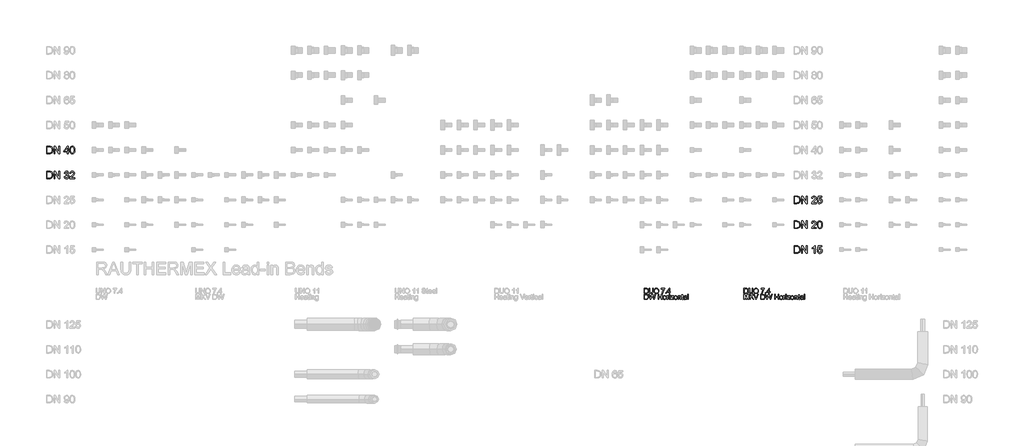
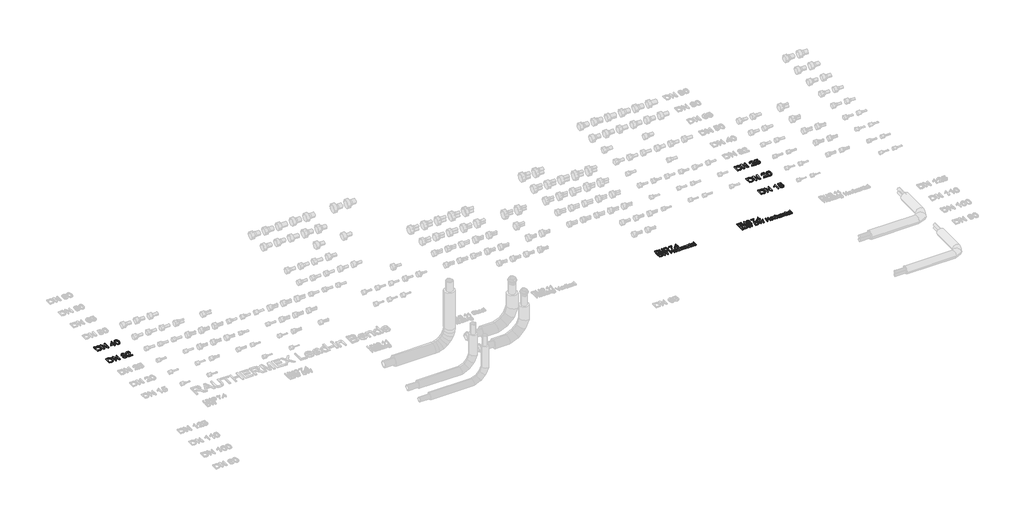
# One storey, part 12 of 44: 7 proxies.
"""IFC4 building model written with IfcOpenShell, lengths in millimetres."""

from ifc_helpers import new_model, si_unit, origin, origin_with_axes, place, context, project, spatial, polyline, outline, extrude, element, save

model = new_model("IFC4")

# Units and contexts
model_context = context("Model", 3, world=origin())
ifc_project = project(units=[si_unit("LENGTHUNIT", "METRE", prefix="MILLI")], contexts=[model_context])

# Site, building, storey
site = spatial("IfcSite", under=ifc_project)
building = spatial("IfcBuilding", under=site)
storey = spatial("IfcBuildingStorey", under=building, Name="REHAU Starting view", Elevation=0.0)

# Proxies
placement = place(None, origin())
element("IfcBuildingElementProxy", 1, Name="100", ObjectType="100", at=placement, inside=storey, context=model_context, shape_type="SweptSolid", body=[
    extrude(outline(polyline([(12010.9874089, 6121.9748178), (12010.9874089, 6222.431128), (12045.6418929, 6222.431128), (12063.5700088, 6220.9841255), (12078.3343395, 6213.7981638), (12090.2291907, 6196.6303374), (12094.1777908, 6172.7425332), (12091.5045149, 6152.4722352), (12084.6373844, 6137.8427946), (12075.4648599, 6128.7315838), (12063.4596442, 6123.6916005), (12047.3096246, 6121.9748178), (12010.9874089, 6121.9748178)]), holes=[polyline([(12023.5444477, 6134.5318566), (12045.7645202, 6134.5318566), (12061.9268025, 6136.3467411), (12071.2464797, 6141.4725636), (12078.8861625, 6153.9437632), (12081.620752, 6172.9387369), (12080.2810484, 6186.6239471), (12076.2619376, 6196.7284393), (12063.2266522, 6207.863001), (12045.4211637, 6209.8740892), (12023.5444477, 6209.8740892), (12023.5444477, 6134.5318566)])]), origin_with_axes(), (0.0, 0.0, 1.0), 20.0),
    extrude(outline(polyline([(12177.3681726, 6222.431128), (12189.9252114, 6222.431128), (12189.9252114, 6164.477451), (12186.5161716, 6140.4547567), (12174.2289129, 6125.9847316), (12163.9650053, 6121.8000739), (12150.9297199, 6120.405188), (12127.9861461, 6125.2612303), (12120.3464634, 6131.2055902), (12115.2574291, 6139.3265853), (12111.4437191, 6164.477451), (12111.4437191, 6222.431128), (12124.0007578, 6222.431128), (12124.0007578, 6164.9189094), (12126.4778299, 6145.7767829), (12134.9881668, 6136.2976902), (12149.7524975, 6132.9622268), (12162.5241341, 6134.6115644), (12171.0160768, 6139.5595772), (12175.7801487, 6149.1980855), (12177.3681726, 6164.9189094), (12177.3681726, 6222.431128)])), origin_with_axes(), (0.0, 0.0, 1.0), 20.0),
    extrude(outline(polyline([(12207.1911397, 6170.8785977), (12210.5388658, 6193.0925389), (12220.5820443, 6209.8986147), (12235.9165921, 6220.4752221), (12255.1384264, 6224.0007578), (12268.3147332, 6222.3452889), (12280.1298766, 6217.3788819), (12289.9400631, 6209.4510249), (12297.1014993, 6198.9112058), (12301.479295, 6186.2683279), (12302.9385603, 6172.0312947), (12301.402653, 6157.6041891), (12296.794931, 6144.7835015), (12289.369846, 6134.2252883), (12279.3818499, 6126.5856055), (12267.667874, 6121.9502924), (12255.06485, 6120.405188), (12241.6862081, 6122.1127736), (12229.8036197, 6127.2355304), (12220.0179586, 6135.3105402), (12212.9300988, 6145.8748848), (12207.1911397, 6170.8785977)]), holes=[polyline([(12219.7481785, 6170.7559704), (12222.2589731, 6155.0412778), (12229.7913569, 6143.0667189), (12241.1129253, 6135.4883498), (12254.9912736, 6132.9622268), (12269.071957, 6135.5128753), (12280.4119195, 6143.1648208), (12287.889121, 6155.5072617), (12290.3815215, 6172.1293965), (12286.1140904, 6192.8534156), (12273.6428907, 6206.575414), (12255.2120028, 6211.4437191), (12241.7046022, 6209.0984714), (12230.2205526, 6202.0627282), (12222.366272, 6189.5455433), (12219.7481785, 6170.7559704)])]), origin_with_axes(), (0.0, 0.0, 1.0), 20.0),
    extrude(outline(polyline([(12354.7363452, 6208.3044594), (12354.7363452, 6220.8614981), (12420.6607988, 6220.8614981), (12420.6607988, 6210.7079551), (12401.9601307, 6183.6931539), (12387.6495211, 6149.2716619), (12382.9896824, 6121.9748178), (12370.4326437, 6121.9748178), (12375.4235761, 6150.3017315), (12389.121049, 6182.3197278), (12408.10376, 6208.3044594), (12354.7363452, 6208.3044594)])), origin_with_axes(), (0.0, 0.0, 1.0), 20.0),
    extrude(outline(polyline([(12437.9267271, 6121.9748178), (12437.9267271, 6134.5318566), (12450.4837658, 6134.5318566), (12450.4837658, 6121.9748178), (12437.9267271, 6121.9748178)])), origin_with_axes(), (0.0, 0.0, 1.0), 20.0),
    extrude(outline(polyline([(12511.6993298, 6121.9748178), (12511.6993298, 6145.5192655), (12466.1800643, 6145.5192655), (12466.1800643, 6158.0763043), (12514.8385895, 6220.8614981), (12524.2563686, 6220.8614981), (12524.2563686, 6158.0763043), (12536.8134074, 6158.0763043), (12536.8134074, 6145.5192655), (12524.2563686, 6145.5192655), (12524.2563686, 6121.9748178), (12511.6993298, 6121.9748178)]), holes=[polyline([(12511.6993298, 6158.0763043), (12511.6993298, 6196.8755921), (12481.6311081, 6158.0763043), (12511.6993298, 6158.0763043)])]), origin_with_axes(), (0.0, 0.0, 1.0), 20.0),
    extrude(outline(polyline([(12010.9874089, 6000.0), (12010.9874089, 6100.4563101), (12045.6418929, 6100.4563101), (12063.5700088, 6099.0093076), (12078.3343395, 6091.823346), (12090.2291907, 6074.6555196), (12094.1777908, 6050.7677153), (12091.5045149, 6030.4974174), (12084.6373844, 6015.8679767), (12075.4648599, 6006.756766), (12063.4596442, 6001.7167826), (12047.3096246, 6000.0), (12010.9874089, 6000.0)]), holes=[polyline([(12023.5444477, 6012.5570388), (12045.7645202, 6012.5570388), (12061.9268025, 6014.3719233), (12071.2464797, 6019.4977457), (12078.8861625, 6031.9689454), (12081.620752, 6050.9639191), (12080.2810484, 6064.6491293), (12076.2619376, 6074.7536214), (12063.2266522, 6085.8881831), (12045.4211637, 6087.8992714), (12023.5444477, 6087.8992714), (12023.5444477, 6012.5570388)])]), origin_with_axes(), (0.0, 0.0, 1.0), 20.0),
    extrude(outline(polyline([(12129.4208859, 6000.0), (12102.02594, 6100.4563101), (12114.9753862, 6100.4563101), (12130.8678884, 6034.4337547), (12135.7729817, 6014.0530922), (12141.0214315, 6032.07931), (12160.9361102, 6100.4563101), (12179.59999, 6100.4563101), (12194.0700152, 6050.8903427), (12204.8366949, 6014.0530922), (12209.5946354, 6033.8451436), (12225.6342904, 6100.4563101), (12238.5837366, 6100.4563101), (12211.1642652, 6000.0), (12197.7488351, 6000.0), (12173.6648272, 6077.5004737), (12170.3048383, 6088.3162043), (12166.5279165, 6075.2931817), (12144.5776241, 6000.0), (12129.4208859, 6000.0)])), origin_with_axes(), (0.0, 0.0, 1.0), 20.0),
    extrude(outline(polyline([(12290.3815215, 6000.0), (12290.3815215, 6100.4563101), (12302.9385603, 6100.4563101), (12302.9385603, 6059.6459342), (12356.3059751, 6059.6459342), (12356.3059751, 6100.4563101), (12368.8630138, 6100.4563101), (12368.8630138, 6000.0), (12356.3059751, 6000.0), (12356.3059751, 6047.0888954), (12302.9385603, 6047.0888954), (12302.9385603, 6000.0), (12290.3815215, 6000.0)])), origin_with_axes(), (0.0, 0.0, 1.0), 20.0),
    extrude(outline(polyline([(12386.1289421, 6036.8863014), (12388.8451375, 6054.6733958), (12396.9937237, 6067.1752523), (12407.0614277, 6073.3004875), (12419.1156944, 6075.3422326), (12432.3073296, 6072.8559635), (12442.8440831, 6065.397156), (12449.7510675, 6053.5544214), (12452.0533957, 6037.916371), (12447.9821683, 6015.5736711), (12436.1241053, 6002.9307932), (12419.1156944, 5998.4303702), (12405.7646436, 6000.9074423), (12395.2401529, 6008.3386586), (12388.4067448, 6020.4297135), (12386.1289421, 6036.8863014)]), holes=[polyline([(12398.6859809, 6036.9108268), (12400.1391148, 6025.5463389), (12404.4985164, 6017.4498693), (12411.0590787, 6012.603024), (12419.1156944, 6010.9874089), (12427.1355219, 6012.6122211), (12433.6838214, 6017.4866575), (12438.043223, 6025.690426), (12439.4963569, 6037.3032343), (12438.034026, 6048.3366285), (12433.6470332, 6056.3227335), (12427.0895366, 6061.1695787), (12419.1156944, 6062.7851938), (12411.0590787, 6061.1757101), (12404.4985164, 6056.3472589), (12400.1391148, 6048.2691835), (12398.6859809, 6036.9108268)])]), origin_with_axes(), (0.0, 0.0, 1.0), 20.0),
    extrude(outline(polyline([(12466.1800643, 6000.0), (12466.1800643, 6073.7726028), (12477.1674732, 6073.7726028), (12477.1674732, 6062.8587702), (12484.9665715, 6072.9142114), (12492.8147207, 6075.3422326), (12505.4208104, 6071.4672089), (12501.2269557, 6060.2100199), (12492.3977878, 6062.7851938), (12485.2976653, 6060.3081217), (12480.7727168, 6053.4409912), (12478.7371031, 6038.7747623), (12478.7371031, 6000.0), (12466.1800643, 6000.0)])), origin_with_axes(), (0.0, 0.0, 1.0), 20.0),
    extrude(outline(polyline([(12513.2689597, 6087.8992714), (12513.2689597, 6100.4563101), (12525.8259984, 6100.4563101), (12525.8259984, 6087.8992714), (12513.2689597, 6087.8992714)])), origin_with_axes(), (0.0, 0.0, 1.0), 20.0),
    extrude(outline(polyline([(12513.2689597, 6000.0), (12513.2689597, 6073.7726028), (12525.8259984, 6073.7726028), (12525.8259984, 6000.0), (12513.2689597, 6000.0)])), origin_with_axes(), (0.0, 0.0, 1.0), 20.0),
    extrude(outline(polyline([(12536.8134074, 6000.0), (12536.8134074, 6011.8212748), (12580.1499064, 6061.215564), (12567.3230875, 6061.215564), (12539.9526671, 6061.215564), (12539.9526671, 6073.7726028), (12598.0289714, 6073.7726028), (12598.0289714, 6063.1040249), (12559.5975656, 6019.2770165), (12553.7114537, 6012.5570388), (12568.2305298, 6012.5570388), (12599.5986012, 6012.5570388), (12599.5986012, 6000.0), (12536.8134074, 6000.0)])), origin_with_axes(), (0.0, 0.0, 1.0), 20.0),
    extrude(outline(polyline([(12609.0163803, 6036.8863014), (12611.7325757, 6054.6733958), (12619.8811619, 6067.1752523), (12629.9488658, 6073.3004875), (12642.0031325, 6075.3422326), (12655.1947677, 6072.8559635), (12665.7315212, 6065.397156), (12672.6385057, 6053.5544214), (12674.9408338, 6037.916371), (12670.8696064, 6015.5736711), (12659.0115434, 6002.9307932), (12642.0031325, 5998.4303702), (12628.6520818, 6000.9074423), (12618.127591, 6008.3386586), (12611.294183, 6020.4297135), (12609.0163803, 6036.8863014)]), holes=[polyline([(12621.5734191, 6036.9108268), (12623.0265529, 6025.5463389), (12627.3859546, 6017.4498693), (12633.9465168, 6012.603024), (12642.0031325, 6010.9874089), (12650.02296, 6012.6122211), (12656.5712595, 6017.4866575), (12660.9306612, 6025.690426), (12662.383795, 6037.3032343), (12660.9214641, 6048.3366285), (12656.5344713, 6056.3227335), (12649.9769748, 6061.1695787), (12642.0031325, 6062.7851938), (12633.9465168, 6061.1757101), (12627.3859546, 6056.3472589), (12623.0265529, 6048.2691835), (12621.5734191, 6036.9108268)])]), origin_with_axes(), (0.0, 0.0, 1.0), 20.0),
    extrude(outline(polyline([(12689.0675024, 6000.0), (12689.0675024, 6073.7726028), (12701.6245412, 6073.7726028), (12701.6245412, 6063.4719069), (12711.2262613, 6072.3746512), (12724.335123, 6075.3422326), (12736.193186, 6072.9509996), (12744.2865899, 6066.6724803), (12748.051249, 6057.4386422), (12748.7134366, 6045.2985363), (12748.7134366, 6000.0), (12736.1563978, 6000.0), (12736.1563978, 6043.6062792), (12734.7093953, 6054.7163154), (12729.5958356, 6060.5901646), (12720.9751341, 6062.7851938), (12707.3512376, 6057.8555751), (12703.0562153, 6050.712533), (12701.6245412, 6039.1426443), (12701.6245412, 6000.0), (12689.0675024, 6000.0)])), origin_with_axes(), (0.0, 0.0, 1.0), 20.0),
    extrude(outline(polyline([(12792.6630723, 6010.4723741), (12794.2327021, 5999.632118), (12784.8394485, 5998.4303702), (12774.3180234, 6000.5150348), (12769.0695737, 6005.9842138), (12767.5489947, 6020.2335097), (12767.5489947, 6061.215564), (12758.1312157, 6061.215564), (12758.1312157, 6073.7726028), (12767.5489947, 6073.7726028), (12767.5489947, 6091.7007187), (12780.1060335, 6099.082884), (12780.1060335, 6073.7726028), (12792.6630723, 6073.7726028), (12792.6630723, 6061.215564), (12780.1060335, 6061.215564), (12780.1060335, 6020.6013917), (12780.7682211, 6014.1266686), (12782.9141994, 6011.8335375), (12787.1938933, 6010.9874089), (12792.6630723, 6010.4723741)])), origin_with_axes(), (0.0, 0.0, 1.0), 20.0),
    extrude(outline(polyline([(12852.3090064, 6009.4177791), (12840.1321124, 6000.9074423), (12826.6798941, 5998.4303702), (12816.1860602, 5999.9202922), (12808.4452099, 6004.3900585), (12803.671941, 6011.1774813), (12802.0808514, 6019.6203731), (12804.4843471, 6029.5531869), (12810.7996546, 6036.7636741), (12819.5920343, 6040.8839524), (12830.4568159, 6042.7724133), (12852.23543, 6047.0888954), (12852.3090064, 6049.8847985), (12848.8509157, 6059.1554248), (12834.9695017, 6062.7851938), (12822.2653102, 6060.3694354), (12816.20752, 6051.7977849), (12803.6504812, 6053.3674148), (12809.082872, 6065.6301479), (12820.02123, 6072.8161096), (12836.5881825, 6075.3422326), (12851.8062344, 6073.1104152), (12860.4024103, 6067.5063461), (12864.2529085, 6058.9837466), (12864.8660452, 6047.9963376), (12864.8660452, 6032.3736156), (12865.5037073, 6010.5582133), (12868.0053049, 6000.0), (12855.4482661, 6000.0), (12852.3090064, 6009.4177791)]), holes=[polyline([(12852.3090064, 6034.5318566), (12832.0509712, 6030.6813584), (12821.2475033, 6028.6457447), (12816.3546728, 6025.3348067), (12814.6378901, 6020.5032899), (12818.3780237, 6013.7097357), (12829.3531699, 6010.9874089), (12842.0573615, 6013.9917785), (12850.2488673, 6021.2635793), (12852.23543, 6030.975664), (12852.3090064, 6034.5318566)])]), origin_with_axes(), (0.0, 0.0, 1.0), 20.0),
    extrude(outline(polyline([(12882.1319735, 6000.0), (12882.1319735, 6100.4563101), (12894.6890123, 6100.4563101), (12894.6890123, 6000.0), (12882.1319735, 6000.0)])), origin_with_axes(), (0.0, 0.0, 1.0), 20.0),
])
element("IfcBuildingElementProxy", 2, Name="100", ObjectType="100", at=placement, inside=storey, context=model_context, shape_type="SweptSolid", body=[
    extrude(outline(polyline([(14010.9874089, 6121.9748178), (14010.9874089, 6222.431128), (14045.6418929, 6222.431128), (14063.5700088, 6220.9841255), (14078.3343395, 6213.7981638), (14090.2291907, 6196.6303374), (14094.1777908, 6172.7425332), (14091.5045149, 6152.4722352), (14084.6373844, 6137.8427946), (14075.4648599, 6128.7315838), (14063.4596442, 6123.6916005), (14047.3096246, 6121.9748178), (14010.9874089, 6121.9748178)]), holes=[polyline([(14023.5444477, 6134.5318566), (14045.7645202, 6134.5318566), (14061.9268025, 6136.3467411), (14071.2464797, 6141.4725636), (14078.8861625, 6153.9437632), (14081.620752, 6172.9387369), (14080.2810484, 6186.6239471), (14076.2619376, 6196.7284393), (14063.2266522, 6207.863001), (14045.4211637, 6209.8740892), (14023.5444477, 6209.8740892), (14023.5444477, 6134.5318566)])]), origin_with_axes(), (0.0, 0.0, 1.0), 20.0),
    extrude(outline(polyline([(14177.3681726, 6222.431128), (14189.9252114, 6222.431128), (14189.9252114, 6164.477451), (14186.5161716, 6140.4547567), (14174.2289129, 6125.9847316), (14163.9650053, 6121.8000739), (14150.9297199, 6120.405188), (14127.9861461, 6125.2612303), (14120.3464634, 6131.2055902), (14115.2574291, 6139.3265853), (14111.4437191, 6164.477451), (14111.4437191, 6222.431128), (14124.0007578, 6222.431128), (14124.0007578, 6164.9189094), (14126.4778299, 6145.7767829), (14134.9881668, 6136.2976902), (14149.7524975, 6132.9622268), (14162.5241341, 6134.6115644), (14171.0160768, 6139.5595772), (14175.7801487, 6149.1980855), (14177.3681726, 6164.9189094), (14177.3681726, 6222.431128)])), origin_with_axes(), (0.0, 0.0, 1.0), 20.0),
    extrude(outline(polyline([(14207.1911397, 6170.8785977), (14210.5388658, 6193.0925389), (14220.5820443, 6209.8986147), (14235.9165921, 6220.4752221), (14255.1384264, 6224.0007578), (14268.3147332, 6222.3452889), (14280.1298766, 6217.3788819), (14289.9400631, 6209.4510249), (14297.1014993, 6198.9112058), (14301.479295, 6186.2683279), (14302.9385603, 6172.0312947), (14301.402653, 6157.6041891), (14296.794931, 6144.7835015), (14289.369846, 6134.2252883), (14279.3818499, 6126.5856055), (14267.667874, 6121.9502924), (14255.06485, 6120.405188), (14241.6862081, 6122.1127736), (14229.8036197, 6127.2355304), (14220.0179586, 6135.3105402), (14212.9300988, 6145.8748848), (14207.1911397, 6170.8785977)]), holes=[polyline([(14219.7481785, 6170.7559704), (14222.2589731, 6155.0412778), (14229.7913569, 6143.0667189), (14241.1129253, 6135.4883498), (14254.9912736, 6132.9622268), (14269.071957, 6135.5128753), (14280.4119195, 6143.1648208), (14287.889121, 6155.5072617), (14290.3815215, 6172.1293965), (14286.1140904, 6192.8534156), (14273.6428907, 6206.575414), (14255.2120028, 6211.4437191), (14241.7046022, 6209.0984714), (14230.2205526, 6202.0627282), (14222.366272, 6189.5455433), (14219.7481785, 6170.7559704)])]), origin_with_axes(), (0.0, 0.0, 1.0), 20.0),
    extrude(outline(polyline([(14354.7363452, 6208.3044594), (14354.7363452, 6220.8614981), (14420.6607988, 6220.8614981), (14420.6607988, 6210.7079551), (14401.9601307, 6183.6931539), (14387.6495211, 6149.2716619), (14382.9896824, 6121.9748178), (14370.4326437, 6121.9748178), (14375.4235761, 6150.3017315), (14389.121049, 6182.3197278), (14408.10376, 6208.3044594), (14354.7363452, 6208.3044594)])), origin_with_axes(), (0.0, 0.0, 1.0), 20.0),
    extrude(outline(polyline([(14437.9267271, 6121.9748178), (14437.9267271, 6134.5318566), (14450.4837658, 6134.5318566), (14450.4837658, 6121.9748178), (14437.9267271, 6121.9748178)])), origin_with_axes(), (0.0, 0.0, 1.0), 20.0),
    extrude(outline(polyline([(14511.6993298, 6121.9748178), (14511.6993298, 6145.5192655), (14466.1800643, 6145.5192655), (14466.1800643, 6158.0763043), (14514.8385895, 6220.8614981), (14524.2563686, 6220.8614981), (14524.2563686, 6158.0763043), (14536.8134074, 6158.0763043), (14536.8134074, 6145.5192655), (14524.2563686, 6145.5192655), (14524.2563686, 6121.9748178), (14511.6993298, 6121.9748178)]), holes=[polyline([(14511.6993298, 6158.0763043), (14511.6993298, 6196.8755921), (14481.6311081, 6158.0763043), (14511.6993298, 6158.0763043)])]), origin_with_axes(), (0.0, 0.0, 1.0), 20.0),
    extrude(outline(polyline([(14010.9874089, 6000.0), (14010.9874089, 6100.4563101), (14032.5943448, 6100.4563101), (14053.1466856, 6029.6512888), (14057.2914894, 6014.8624326), (14061.7796497, 6030.8775621), (14081.988634, 6100.4563101), (14103.5955698, 6100.4563101), (14103.5955698, 6000.0), (14091.0385311, 6000.0), (14091.0385311, 6087.8992714), (14065.8018262, 6000.0), (14048.7811526, 6000.0), (14023.5444477, 6087.8992714), (14023.5444477, 6000.0), (14010.9874089, 6000.0)])), origin_with_axes(), (0.0, 0.0, 1.0), 20.0),
    extrude(outline(polyline([(14247.8543629, 6000.0), (14207.8778527, 6100.4563101), (14221.3178083, 6100.4563101), (14248.0750921, 6028.081659), (14253.4952201, 6011.7722238), (14258.8417718, 6028.081659), (14285.672632, 6100.4563101), (14299.1125875, 6100.4563101), (14260.8283346, 6000.0), (14247.8543629, 6000.0)])), origin_with_axes(), (0.0, 0.0, 1.0), 20.0),
    extrude(outline(polyline([(14125.5703877, 6000.0), (14125.5703877, 6100.4563101), (14138.1274265, 6100.4563101), (14138.1274265, 6051.2827501), (14189.6309058, 6100.4563101), (14207.1911397, 6100.4563101), (14163.9527425, 6059.1554248), (14208.7607695, 6000.0), (14193.4078276, 6000.0), (14155.0499982, 6050.6696135), (14138.1274265, 6034.5318566), (14138.1274265, 6000.0), (14125.5703877, 6000.0)])), origin_with_axes(), (0.0, 0.0, 1.0), 20.0),
    extrude(outline(polyline([(14350.0274557, 6000.0), (14350.0274557, 6100.4563101), (14384.6819396, 6100.4563101), (14402.6100555, 6099.0093076), (14417.3743863, 6091.823346), (14429.2692374, 6074.6555196), (14433.2178375, 6050.7677153), (14430.5445617, 6030.4974174), (14423.6774311, 6015.8679767), (14414.5049067, 6006.756766), (14402.4996909, 6001.7167826), (14386.3496713, 6000.0), (14350.0274557, 6000.0)]), holes=[polyline([(14362.5844944, 6012.5570388), (14384.804567, 6012.5570388), (14400.9668493, 6014.3719233), (14410.2865265, 6019.4977457), (14417.9262093, 6031.9689454), (14420.6607988, 6050.9639191), (14419.3210952, 6064.6491293), (14415.3019844, 6074.7536214), (14402.266699, 6085.8881831), (14384.4612104, 6087.8992714), (14362.5844944, 6087.8992714), (14362.5844944, 6012.5570388)])]), origin_with_axes(), (0.0, 0.0, 1.0), 20.0),
    extrude(outline(polyline([(14468.4609327, 6000.0), (14441.0659868, 6100.4563101), (14454.015433, 6100.4563101), (14469.9079352, 6034.4337547), (14474.8130284, 6014.0530922), (14480.0614782, 6032.07931), (14499.9761569, 6100.4563101), (14518.6400368, 6100.4563101), (14533.1100619, 6050.8903427), (14543.8767417, 6014.0530922), (14548.6346821, 6033.8451436), (14564.6743371, 6100.4563101), (14577.6237834, 6100.4563101), (14550.204312, 6000.0), (14536.7888819, 6000.0), (14512.7048739, 6077.5004737), (14509.3448851, 6088.3162043), (14505.5679632, 6075.2931817), (14483.6176709, 6000.0), (14468.4609327, 6000.0)])), origin_with_axes(), (0.0, 0.0, 1.0), 20.0),
    extrude(outline(polyline([(14629.4215683, 6000.0), (14629.4215683, 6100.4563101), (14641.978607, 6100.4563101), (14641.978607, 6059.6459342), (14695.3460218, 6059.6459342), (14695.3460218, 6100.4563101), (14707.9030606, 6100.4563101), (14707.9030606, 6000.0), (14695.3460218, 6000.0), (14695.3460218, 6047.0888954), (14641.978607, 6047.0888954), (14641.978607, 6000.0), (14629.4215683, 6000.0)])), origin_with_axes(), (0.0, 0.0, 1.0), 20.0),
    extrude(outline(polyline([(14725.1689889, 6036.8863014), (14727.8851843, 6054.6733958), (14736.0337705, 6067.1752523), (14746.1014744, 6073.3004875), (14758.1557411, 6075.3422326), (14771.3473763, 6072.8559635), (14781.8841298, 6065.397156), (14788.7911143, 6053.5544214), (14791.0934424, 6037.916371), (14787.022215, 6015.5736711), (14775.164152, 6002.9307932), (14758.1557411, 5998.4303702), (14744.8046904, 6000.9074423), (14734.2801996, 6008.3386586), (14727.4467916, 6020.4297135), (14725.1689889, 6036.8863014)]), holes=[polyline([(14737.7260277, 6036.9108268), (14739.1791615, 6025.5463389), (14743.5385632, 6017.4498693), (14750.0991254, 6012.603024), (14758.1557411, 6010.9874089), (14766.1755686, 6012.6122211), (14772.7238681, 6017.4866575), (14777.0832698, 6025.690426), (14778.5364037, 6037.3032343), (14777.0740727, 6048.3366285), (14772.6870799, 6056.3227335), (14766.1295834, 6061.1695787), (14758.1557411, 6062.7851938), (14750.0991254, 6061.1757101), (14743.5385632, 6056.3472589), (14739.1791615, 6048.2691835), (14737.7260277, 6036.9108268)])]), origin_with_axes(), (0.0, 0.0, 1.0), 20.0),
    extrude(outline(polyline([(14805.220111, 6000.0), (14805.220111, 6073.7726028), (14816.20752, 6073.7726028), (14816.20752, 6062.8587702), (14824.0066183, 6072.9142114), (14831.8547675, 6075.3422326), (14844.4608572, 6071.4672089), (14840.2670025, 6060.2100199), (14831.4378346, 6062.7851938), (14824.3377121, 6060.3081217), (14819.8127635, 6053.4409912), (14817.7771498, 6038.7747623), (14817.7771498, 6000.0), (14805.220111, 6000.0)])), origin_with_axes(), (0.0, 0.0, 1.0), 20.0),
    extrude(outline(polyline([(14852.3090064, 6087.8992714), (14852.3090064, 6100.4563101), (14864.8660452, 6100.4563101), (14864.8660452, 6087.8992714), (14852.3090064, 6087.8992714)])), origin_with_axes(), (0.0, 0.0, 1.0), 20.0),
    extrude(outline(polyline([(14852.3090064, 6000.0), (14852.3090064, 6073.7726028), (14864.8660452, 6073.7726028), (14864.8660452, 6000.0), (14852.3090064, 6000.0)])), origin_with_axes(), (0.0, 0.0, 1.0), 20.0),
    extrude(outline(polyline([(14875.8534541, 6000.0), (14875.8534541, 6011.8212748), (14919.1899531, 6061.215564), (14906.3631343, 6061.215564), (14878.9927138, 6061.215564), (14878.9927138, 6073.7726028), (14937.0690181, 6073.7726028), (14937.0690181, 6063.1040249), (14898.6376124, 6019.2770165), (14892.7515004, 6012.5570388), (14907.2705765, 6012.5570388), (14938.638648, 6012.5570388), (14938.638648, 6000.0), (14875.8534541, 6000.0)])), origin_with_axes(), (0.0, 0.0, 1.0), 20.0),
    extrude(outline(polyline([(14948.056427, 6036.8863014), (14950.7726224, 6054.6733958), (14958.9212086, 6067.1752523), (14968.9889126, 6073.3004875), (14981.0431793, 6075.3422326), (14994.2348145, 6072.8559635), (15004.771568, 6065.397156), (15011.6785524, 6053.5544214), (15013.9808806, 6037.916371), (15009.9096532, 6015.5736711), (14998.0515902, 6002.9307932), (14981.0431793, 5998.4303702), (14967.6921285, 6000.9074423), (14957.1676378, 6008.3386586), (14950.3342297, 6020.4297135), (14948.056427, 6036.8863014)]), holes=[polyline([(14960.6134658, 6036.9108268), (14962.0665997, 6025.5463389), (14966.4260013, 6017.4498693), (14972.9865636, 6012.603024), (14981.0431793, 6010.9874089), (14989.0630068, 6012.6122211), (14995.6113063, 6017.4866575), (14999.9707079, 6025.690426), (15001.4238418, 6037.3032343), (14999.9615109, 6048.3366285), (14995.5745181, 6056.3227335), (14989.0170215, 6061.1695787), (14981.0431793, 6062.7851938), (14972.9865636, 6061.1757101), (14966.4260013, 6056.3472589), (14962.0665997, 6048.2691835), (14960.6134658, 6036.9108268)])]), origin_with_axes(), (0.0, 0.0, 1.0), 20.0),
    extrude(outline(polyline([(15028.1075492, 6000.0), (15028.1075492, 6073.7726028), (15040.664588, 6073.7726028), (15040.664588, 6063.4719069), (15050.266308, 6072.3746512), (15063.3751698, 6075.3422326), (15075.2332328, 6072.9509996), (15083.3266367, 6066.6724803), (15087.0912957, 6057.4386422), (15087.7534833, 6045.2985363), (15087.7534833, 6000.0), (15075.1964446, 6000.0), (15075.1964446, 6043.6062792), (15073.7494421, 6054.7163154), (15068.6358823, 6060.5901646), (15060.0151809, 6062.7851938), (15046.3912843, 6057.8555751), (15042.0962621, 6050.712533), (15040.664588, 6039.1426443), (15040.664588, 6000.0), (15028.1075492, 6000.0)])), origin_with_axes(), (0.0, 0.0, 1.0), 20.0),
    extrude(outline(polyline([(15131.703119, 6010.4723741), (15133.2727489, 5999.632118), (15123.8794953, 5998.4303702), (15113.3580702, 6000.5150348), (15108.1096204, 6005.9842138), (15106.5890415, 6020.2335097), (15106.5890415, 6061.215564), (15097.1712624, 6061.215564), (15097.1712624, 6073.7726028), (15106.5890415, 6073.7726028), (15106.5890415, 6091.7007187), (15119.1460803, 6099.082884), (15119.1460803, 6073.7726028), (15131.703119, 6073.7726028), (15131.703119, 6061.215564), (15119.1460803, 6061.215564), (15119.1460803, 6020.6013917), (15119.8082679, 6014.1266686), (15121.9542462, 6011.8335375), (15126.23394, 6010.9874089), (15131.703119, 6010.4723741)])), origin_with_axes(), (0.0, 0.0, 1.0), 20.0),
    extrude(outline(polyline([(15191.3490532, 6009.4177791), (15179.1721591, 6000.9074423), (15165.7199408, 5998.4303702), (15155.2261069, 5999.9202922), (15147.4852566, 6004.3900585), (15142.7119877, 6011.1774813), (15141.1208981, 6019.6203731), (15143.5243938, 6029.5531869), (15149.8397014, 6036.7636741), (15158.6320811, 6040.8839524), (15169.4968627, 6042.7724133), (15191.2754768, 6047.0888954), (15191.3490532, 6049.8847985), (15187.8909624, 6059.1554248), (15174.0095485, 6062.7851938), (15161.3053569, 6060.3694354), (15155.2475667, 6051.7977849), (15142.690528, 6053.3674148), (15148.1229187, 6065.6301479), (15159.0612767, 6072.8161096), (15175.6282293, 6075.3422326), (15190.8462811, 6073.1104152), (15199.4424571, 6067.5063461), (15203.2929553, 6058.9837466), (15203.9060919, 6047.9963376), (15203.9060919, 6032.3736156), (15204.5437541, 6010.5582133), (15207.0453516, 6000.0), (15194.4883129, 6000.0), (15191.3490532, 6009.4177791)]), holes=[polyline([(15191.3490532, 6034.5318566), (15171.091018, 6030.6813584), (15160.2875501, 6028.6457447), (15155.3947195, 6025.3348067), (15153.6779369, 6020.5032899), (15157.4180705, 6013.7097357), (15168.3932167, 6010.9874089), (15181.0974082, 6013.9917785), (15189.288914, 6021.2635793), (15191.2754768, 6030.975664), (15191.3490532, 6034.5318566)])]), origin_with_axes(), (0.0, 0.0, 1.0), 20.0),
    extrude(outline(polyline([(15221.1720203, 6000.0), (15221.1720203, 6100.4563101), (15233.729059, 6100.4563101), (15233.729059, 6000.0), (15221.1720203, 6000.0)])), origin_with_axes(), (0.0, 0.0, 1.0), 20.0),
])
element("IfcBuildingElementProxy", 3, Name="150", ObjectType="150", at=placement, inside=storey, context=model_context, shape_type="SweptSolid", body=[
    extrude(outline(polyline([(16.4811134, 8425.0), (16.4811134, 8575.6844652), (68.4628393, 8575.6844652), (95.3550131, 8573.5139615), (117.5015093, 8562.735019), (127.9217668, 8551.2571007), (135.343786, 8536.9832793), (139.7859611, 8520.1894663), (141.2666861, 8501.151573), (137.2567724, 8470.7461261), (126.9560765, 8448.8019651), (113.1972899, 8435.135149), (95.1894663, 8427.575174), (70.9644369, 8425.0), (16.4811134, 8425.0)]), holes=[polyline([(35.3166715, 8443.8355582), (68.6467803, 8443.8355582), (92.8902038, 8446.5578849), (106.8697196, 8454.2466186), (118.3292437, 8472.9534181), (122.431128, 8501.4458786), (120.4215726, 8521.9736939), (114.3929064, 8537.1304321), (105.4855636, 8547.5414926), (94.8399784, 8553.8322747), (68.1317455, 8556.8489071), (35.3166715, 8556.8489071), (35.3166715, 8443.8355582)])]), origin_with_axes(), (0.0, 0.0, 1.0), 20.0),
    extrude(outline(polyline([(167.1655786, 8425.0), (167.1655786, 8575.6844652), (187.3255119, 8575.6844652), (266.0522589, 8456.3067578), (266.0522589, 8575.6844652), (284.8878171, 8575.6844652), (284.8878171, 8425.0), (264.7278837, 8425.0), (186.0011368, 8544.4144956), (186.0011368, 8425.0), (167.1655786, 8425.0)])), origin_with_axes(), (0.0, 0.0, 1.0), 20.0),
    extrude(outline(polyline([(369.6478288, 8465.0255611), (388.4833869, 8467.3800058), (392.7002343, 8455.5434026), (398.8760533, 8447.5511663), (407.3143465, 8442.9986266), (418.3186167, 8441.4811134), (431.2312747, 8443.5688437), (441.2008768, 8449.8320347), (447.5744324, 8459.1762374), (449.6989509, 8470.5070028), (447.5928265, 8481.2629526), (441.2744532, 8489.9863544), (431.7095213, 8495.7667003), (419.8637211, 8497.6934822), (406.6567575, 8495.6333431), (408.7536848, 8514.4689012), (411.7703172, 8514.248172), (433.1442611, 8519.6560374), (440.2627777, 8526.5170366), (442.6356166, 8536.2843035), (440.9157683, 8544.4190942), (435.7562233, 8551.0179774), (427.8835486, 8555.3911747), (418.0243111, 8556.8489071), (408.1466795, 8555.3773791), (400.0716698, 8550.9627951), (394.1763608, 8543.6051552), (390.8378317, 8533.3044594), (372.0022735, 8535.6589041), (377.5480946, 8552.5722789), (387.4165291, 8565.1998284), (400.9177983, 8573.063306), (417.3621235, 8575.6844652), (440.0788367, 8570.5157232), (455.9713389, 8556.3890546), (461.4711747, 8537.3879495), (456.2472504, 8520.0239194), (440.7962066, 8507.5527197), (452.5868246, 8502.7886479), (461.324022, 8494.6768499), (466.7318873, 8483.6587841), (468.5345091, 8470.175909), (464.9292655, 8451.8185974), (454.1135348, 8436.4779182), (437.7887713, 8426.103646), (417.6564291, 8422.6455552), (399.4462704, 8425.5978082), (384.620626, 8434.4545673), (374.310733, 8448.0018217), (369.6478288, 8465.0255611)])), origin_with_axes(), (0.0, 0.0, 1.0), 20.0),
    extrude(outline(polyline([(581.547858, 8443.8355582), (581.547858, 8425.0), (482.6611777, 8425.0), (484.6845286, 8437.9862344), (496.1256587, 8457.9806209), (519.7068946, 8479.8144173), (552.227663, 8511.1947515), (558.325307, 8522.0104821), (560.3578551, 8532.5319072), (558.4402702, 8541.9634818), (552.6875155, 8549.8039669), (543.844552, 8555.087672), (532.6563408, 8556.8489071), (520.9071096, 8555.1290587), (511.7790376, 8549.9695138), (505.8883271, 8541.7749423), (503.8511806, 8530.9500146), (485.0156224, 8533.3044594), (489.5819577, 8551.5238152), (499.4549908, 8564.8319464), (514.1196868, 8572.9713355), (533.061011, 8575.6844652), (552.140291, 8572.6678329), (566.7773959, 8563.6179358), (576.0894089, 8550.0982725), (579.1934132, 8533.6723414), (575.8456871, 8515.8116705), (564.7172567, 8497.3439944), (537.7331123, 8471.5370724), (516.0648628, 8453.4188841), (507.5667887, 8443.8355582), (581.547858, 8443.8355582)])), origin_with_axes(), (0.0, 0.0, 1.0), 20.0),
])
element("IfcBuildingElementProxy", 4, Name="150", ObjectType="150", at=placement, inside=storey, context=model_context, shape_type="SweptSolid", body=[
    extrude(outline(polyline([(16.4811134, 8925.0), (16.4811134, 9075.6844652), (68.4628393, 9075.6844652), (95.3550131, 9073.5139615), (117.5015093, 9062.735019), (127.9217668, 9051.2571007), (135.343786, 9036.9832793), (139.7859611, 9020.1894663), (141.2666861, 9001.151573), (137.2567724, 8970.7461261), (126.9560765, 8948.8019651), (113.1972899, 8935.135149), (95.1894663, 8927.575174), (70.9644369, 8925.0), (16.4811134, 8925.0)]), holes=[polyline([(35.3166715, 8943.8355582), (68.6467803, 8943.8355582), (92.8902038, 8946.5578849), (106.8697196, 8954.2466186), (118.3292437, 8972.9534181), (122.431128, 9001.4458786), (120.4215726, 9021.9736939), (114.3929064, 9037.1304321), (105.4855636, 9047.5414926), (94.8399784, 9053.8322747), (68.1317455, 9056.8489071), (35.3166715, 9056.8489071), (35.3166715, 8943.8355582)])]), origin_with_axes(), (0.0, 0.0, 1.0), 20.0),
    extrude(outline(polyline([(167.1655786, 8925.0), (167.1655786, 9075.6844652), (187.3255119, 9075.6844652), (266.0522589, 8956.3067578), (266.0522589, 9075.6844652), (284.8878171, 9075.6844652), (284.8878171, 8925.0), (264.7278837, 8925.0), (186.0011368, 9044.4144956), (186.0011368, 8925.0), (167.1655786, 8925.0)])), origin_with_axes(), (0.0, 0.0, 1.0), 20.0),
    extrude(outline(polyline([(430.8633928, 8925.0), (430.8633928, 8960.3166715), (362.5844944, 8960.3166715), (362.5844944, 8979.1522297), (435.5722823, 9073.3300205), (449.6989509, 9073.3300205), (449.6989509, 8979.1522297), (468.5345091, 8979.1522297), (468.5345091, 8960.3166715), (449.6989509, 8960.3166715), (449.6989509, 8925.0), (430.8633928, 8925.0)]), holes=[polyline([(430.8633928, 8979.1522297), (430.8633928, 9037.3511613), (385.7610601, 8979.1522297), (430.8633928, 8979.1522297)])]), origin_with_axes(), (0.0, 0.0, 1.0), 20.0),
    extrude(outline(polyline([(485.0156224, 8999.128222), (486.3997784, 9023.2474853), (490.5522465, 9042.4831152), (497.4316398, 9057.1294171), (506.9965717, 9067.4806967), (519.31602, 9073.6335231), (534.4589626, 9075.6844652), (556.4583059, 9070.8284229), (571.6518323, 9056.830513), (580.4810002, 9034.5368641), (583.9023027, 8999.128222), (582.5319423, 8975.1469145), (578.420861, 8955.9572699), (571.5828544, 8941.2971724), (562.0317181, 8930.904506), (549.6846787, 8924.7102929), (534.4589626, 8922.6455552), (514.8876404, 8926.2324047), (500.0252078, 8936.992953), (488.7680188, 8962.4779783), (485.0156224, 8999.128222)]), holes=[polyline([(503.8511806, 8999.1650102), (506.0584726, 8969.536714), (512.6803485, 8952.3888145), (522.5395859, 8944.2080387), (534.4589626, 8941.4811134), (546.3783392, 8944.2172357), (556.2375767, 8952.4256027), (562.8594526, 8969.5826993), (565.0667446, 8999.1650102), (562.933029, 9028.1265203), (556.5318823, 9045.407777), (546.6910389, 9053.9886246), (534.2382334, 9056.8489071), (522.4476155, 9054.3289154), (512.9746541, 9046.7689404), (506.132049, 9028.4116288), (503.8511806, 8999.1650102)])]), origin_with_axes(), (0.0, 0.0, 1.0), 20.0),
])
element("IfcBuildingElementProxy", 5, Name="150", ObjectType="150", at=placement, inside=storey, context=model_context, shape_type="SweptSolid", body=[
    extrude(outline(polyline([(15016.4811134, 6925.0), (15016.4811134, 7075.6844652), (15068.4628393, 7075.6844652), (15095.3550131, 7073.5139615), (15117.5015093, 7062.735019), (15127.9217668, 7051.2571007), (15135.343786, 7036.9832793), (15139.7859611, 7020.1894663), (15141.2666861, 7001.151573), (15137.2567724, 6970.7461261), (15126.9560765, 6948.8019651), (15113.1972899, 6935.135149), (15095.1894663, 6927.575174), (15070.9644369, 6925.0), (15016.4811134, 6925.0)]), holes=[polyline([(15035.3166715, 6943.8355582), (15068.6467803, 6943.8355582), (15092.8902038, 6946.5578849), (15106.8697196, 6954.2466186), (15118.3292437, 6972.9534181), (15122.431128, 7001.4458786), (15120.4215726, 7021.9736939), (15114.3929064, 7037.1304321), (15105.4855636, 7047.5414926), (15094.8399784, 7053.8322747), (15068.1317455, 7056.8489071), (15035.3166715, 7056.8489071), (15035.3166715, 6943.8355582)])]), origin_with_axes(), (0.0, 0.0, 1.0), 20.0),
    extrude(outline(polyline([(15167.1655786, 6925.0), (15167.1655786, 7075.6844652), (15187.3255119, 7075.6844652), (15266.0522589, 6956.3067578), (15266.0522589, 7075.6844652), (15284.8878171, 7075.6844652), (15284.8878171, 6925.0), (15264.7278837, 6925.0), (15186.0011368, 7044.4144956), (15186.0011368, 6925.0), (15167.1655786, 6925.0)])), origin_with_axes(), (0.0, 0.0, 1.0), 20.0),
    extrude(outline(polyline([(15440.2811718, 6925.0), (15421.4456137, 6925.0), (15421.4456137, 7042.4279329), (15403.6033369, 7029.7176099), (15383.7744974, 7020.2078604), (15383.7744974, 7038.0133489), (15411.3840411, 7055.6348965), (15428.141066, 7075.6844652), (15440.2811718, 7075.6844652), (15440.2811718, 6925.0)])), origin_with_axes(), (0.0, 0.0, 1.0), 20.0),
    extrude(outline(polyline([(15485.0156224, 6965.0255611), (15503.8511806, 6967.3800058), (15507.3092713, 6956.072233), (15513.3425361, 6947.9742306), (15521.9233836, 6943.1043927), (15533.0242228, 6941.4811134), (15546.525492, 6943.7389891), (15556.6422469, 6950.5126164), (15562.9606202, 6961.0202459), (15565.0667446, 6974.4801284), (15563.0939774, 6987.1536631), (15557.1756758, 6996.8473537), (15547.2658545, 7003.00018), (15533.3185284, 7005.0511222), (15516.7822327, 7001.7769724), (15506.2056254, 6993.2788983), (15487.3700672, 6995.6333431), (15503.8511806, 7073.3300205), (15576.8389684, 7073.3300205), (15576.8389684, 7054.4944623), (15519.0814952, 7054.4944623), (15511.0248795, 7012.9973732), (15524.4801635, 7021.1643535), (15538.5792409, 7023.8866803), (15556.1777959, 7020.511363), (15570.7873096, 7010.3854111), (15580.6235545, 6994.9527614), (15583.9023027, 6975.6573507), (15580.9500497, 6956.8217926), (15572.0932907, 6940.7085612), (15555.1339307, 6927.1613067), (15532.9506464, 6922.6455552), (15514.4507806, 6925.5472245), (15499.7125081, 6934.2522322), (15489.6095489, 6947.7489029), (15485.0156224, 6965.0255611)])), origin_with_axes(), (0.0, 0.0, 1.0), 20.0),
])
element("IfcBuildingElementProxy", 6, Name="150", ObjectType="150", at=placement, inside=storey, context=model_context, shape_type="SweptSolid", body=[
    extrude(outline(polyline([(15016.4811134, 7425.0), (15016.4811134, 7575.6844652), (15068.4628393, 7575.6844652), (15095.3550131, 7573.5139615), (15117.5015093, 7562.735019), (15127.9217668, 7551.2571007), (15135.343786, 7536.9832793), (15139.7859611, 7520.1894663), (15141.2666861, 7501.151573), (15137.2567724, 7470.7461261), (15126.9560765, 7448.8019651), (15113.1972899, 7435.135149), (15095.1894663, 7427.575174), (15070.9644369, 7425.0), (15016.4811134, 7425.0)]), holes=[polyline([(15035.3166715, 7443.8355582), (15068.6467803, 7443.8355582), (15092.8902038, 7446.5578849), (15106.8697196, 7454.2466186), (15118.3292437, 7472.9534181), (15122.431128, 7501.4458786), (15120.4215726, 7521.9736939), (15114.3929064, 7537.1304321), (15105.4855636, 7547.5414926), (15094.8399784, 7553.8322747), (15068.1317455, 7556.8489071), (15035.3166715, 7556.8489071), (15035.3166715, 7443.8355582)])]), origin_with_axes(), (0.0, 0.0, 1.0), 20.0),
    extrude(outline(polyline([(15167.1655786, 7425.0), (15167.1655786, 7575.6844652), (15187.3255119, 7575.6844652), (15266.0522589, 7456.3067578), (15266.0522589, 7575.6844652), (15284.8878171, 7575.6844652), (15284.8878171, 7425.0), (15264.7278837, 7425.0), (15186.0011368, 7544.4144956), (15186.0011368, 7425.0), (15167.1655786, 7425.0)])), origin_with_axes(), (0.0, 0.0, 1.0), 20.0),
    extrude(outline(polyline([(15466.1800643, 7443.8355582), (15466.1800643, 7425.0), (15367.293384, 7425.0), (15369.316735, 7437.9862344), (15380.757865, 7457.9806209), (15404.3391009, 7479.8144173), (15436.8598693, 7511.1947515), (15442.9575133, 7522.0104821), (15444.9900614, 7532.5319072), (15443.0724765, 7541.9634818), (15437.3197218, 7549.8039669), (15428.4767583, 7555.087672), (15417.2885471, 7556.8489071), (15405.5393159, 7555.1290587), (15396.4112439, 7549.9695138), (15390.5205335, 7541.7749423), (15388.4833869, 7530.9500146), (15369.6478288, 7533.3044594), (15374.214164, 7551.5238152), (15384.0871971, 7564.8319464), (15398.7518931, 7572.9713355), (15417.6932173, 7575.6844652), (15436.7724973, 7572.6678329), (15451.4096022, 7563.6179358), (15460.7216152, 7550.0982725), (15463.8256195, 7533.6723414), (15460.4778934, 7515.8116705), (15449.349463, 7497.3439944), (15422.3653187, 7471.5370724), (15400.6970691, 7453.4188841), (15392.1989951, 7443.8355582), (15466.1800643, 7443.8355582)])), origin_with_axes(), (0.0, 0.0, 1.0), 20.0),
    extrude(outline(polyline([(15485.0156224, 7499.128222), (15486.3997784, 7523.2474853), (15490.5522465, 7542.4831152), (15497.4316398, 7557.1294171), (15506.9965717, 7567.4806967), (15519.31602, 7573.6335231), (15534.4589626, 7575.6844652), (15556.4583059, 7570.8284229), (15571.6518323, 7556.830513), (15580.4810002, 7534.5368641), (15583.9023027, 7499.128222), (15582.5319423, 7475.1469145), (15578.420861, 7455.9572699), (15571.5828544, 7441.2971724), (15562.0317181, 7430.904506), (15549.6846787, 7424.7102929), (15534.4589626, 7422.6455552), (15514.8876404, 7426.2324047), (15500.0252078, 7436.992953), (15488.7680188, 7462.4779783), (15485.0156224, 7499.128222)]), holes=[polyline([(15503.8511806, 7499.1650102), (15506.0584726, 7469.536714), (15512.6803485, 7452.3888145), (15522.5395859, 7444.2080387), (15534.4589626, 7441.4811134), (15546.3783392, 7444.2172357), (15556.2375767, 7452.4256027), (15562.8594526, 7469.5826993), (15565.0667446, 7499.1650102), (15562.933029, 7528.1265203), (15556.5318823, 7545.407777), (15546.6910389, 7553.9886246), (15534.2382334, 7556.8489071), (15522.4476155, 7554.3289154), (15512.9746541, 7546.7689404), (15506.132049, 7528.4116288), (15503.8511806, 7499.1650102)])]), origin_with_axes(), (0.0, 0.0, 1.0), 20.0),
])
element("IfcBuildingElementProxy", 7, Name="150", ObjectType="150", at=placement, inside=storey, context=model_context, shape_type="SweptSolid", body=[
    extrude(outline(polyline([(15016.4811134, 7925.0), (15016.4811134, 8075.6844652), (15068.4628393, 8075.6844652), (15095.3550131, 8073.5139615), (15117.5015093, 8062.735019), (15127.9217668, 8051.2571007), (15135.343786, 8036.9832793), (15139.7859611, 8020.1894663), (15141.2666861, 8001.151573), (15137.2567724, 7970.7461261), (15126.9560765, 7948.8019651), (15113.1972899, 7935.135149), (15095.1894663, 7927.575174), (15070.9644369, 7925.0), (15016.4811134, 7925.0)]), holes=[polyline([(15035.3166715, 7943.8355582), (15068.6467803, 7943.8355582), (15092.8902038, 7946.5578849), (15106.8697196, 7954.2466186), (15118.3292437, 7972.9534181), (15122.431128, 8001.4458786), (15120.4215726, 8021.9736939), (15114.3929064, 8037.1304321), (15105.4855636, 8047.5414926), (15094.8399784, 8053.8322747), (15068.1317455, 8056.8489071), (15035.3166715, 8056.8489071), (15035.3166715, 7943.8355582)])]), origin_with_axes(), (0.0, 0.0, 1.0), 20.0),
    extrude(outline(polyline([(15167.1655786, 7925.0), (15167.1655786, 8075.6844652), (15187.3255119, 8075.6844652), (15266.0522589, 7956.3067578), (15266.0522589, 8075.6844652), (15284.8878171, 8075.6844652), (15284.8878171, 7925.0), (15264.7278837, 7925.0), (15186.0011368, 8044.4144956), (15186.0011368, 7925.0), (15167.1655786, 7925.0)])), origin_with_axes(), (0.0, 0.0, 1.0), 20.0),
    extrude(outline(polyline([(15466.1800643, 7943.8355582), (15466.1800643, 7925.0), (15367.293384, 7925.0), (15369.316735, 7937.9862344), (15380.757865, 7957.9806209), (15404.3391009, 7979.8144173), (15436.8598693, 8011.1947515), (15442.9575133, 8022.0104821), (15444.9900614, 8032.5319072), (15443.0724765, 8041.9634818), (15437.3197218, 8049.8039669), (15428.4767583, 8055.087672), (15417.2885471, 8056.8489071), (15405.5393159, 8055.1290587), (15396.4112439, 8049.9695138), (15390.5205335, 8041.7749423), (15388.4833869, 8030.9500146), (15369.6478288, 8033.3044594), (15374.214164, 8051.5238152), (15384.0871971, 8064.8319464), (15398.7518931, 8072.9713355), (15417.6932173, 8075.6844652), (15436.7724973, 8072.6678329), (15451.4096022, 8063.6179358), (15460.7216152, 8050.0982725), (15463.8256195, 8033.6723414), (15460.4778934, 8015.8116705), (15449.349463, 7997.3439944), (15422.3653187, 7971.5370724), (15400.6970691, 7953.4188841), (15392.1989951, 7943.8355582), (15466.1800643, 7943.8355582)])), origin_with_axes(), (0.0, 0.0, 1.0), 20.0),
    extrude(outline(polyline([(15485.0156224, 7965.0255611), (15503.8511806, 7967.3800058), (15507.3092713, 7956.072233), (15513.3425361, 7947.9742306), (15521.9233836, 7943.1043927), (15533.0242228, 7941.4811134), (15546.525492, 7943.7389891), (15556.6422469, 7950.5126164), (15562.9606202, 7961.0202459), (15565.0667446, 7974.4801284), (15563.0939774, 7987.1536631), (15557.1756758, 7996.8473537), (15547.2658545, 8003.00018), (15533.3185284, 8005.0511222), (15516.7822327, 8001.7769724), (15506.2056254, 7993.2788983), (15487.3700672, 7995.6333431), (15503.8511806, 8073.3300205), (15576.8389684, 8073.3300205), (15576.8389684, 8054.4944623), (15519.0814952, 8054.4944623), (15511.0248795, 8012.9973732), (15524.4801635, 8021.1643535), (15538.5792409, 8023.8866803), (15556.1777959, 8020.511363), (15570.7873096, 8010.3854111), (15580.6235545, 7994.9527614), (15583.9023027, 7975.6573507), (15580.9500497, 7956.8217926), (15572.0932907, 7940.7085612), (15555.1339307, 7927.1613067), (15532.9506464, 7922.6455552), (15514.4507806, 7925.5472245), (15499.7125081, 7934.2522322), (15489.6095489, 7947.7489029), (15485.0156224, 7965.0255611)])), origin_with_axes(), (0.0, 0.0, 1.0), 20.0),
])

save(model, "model.ifc")
